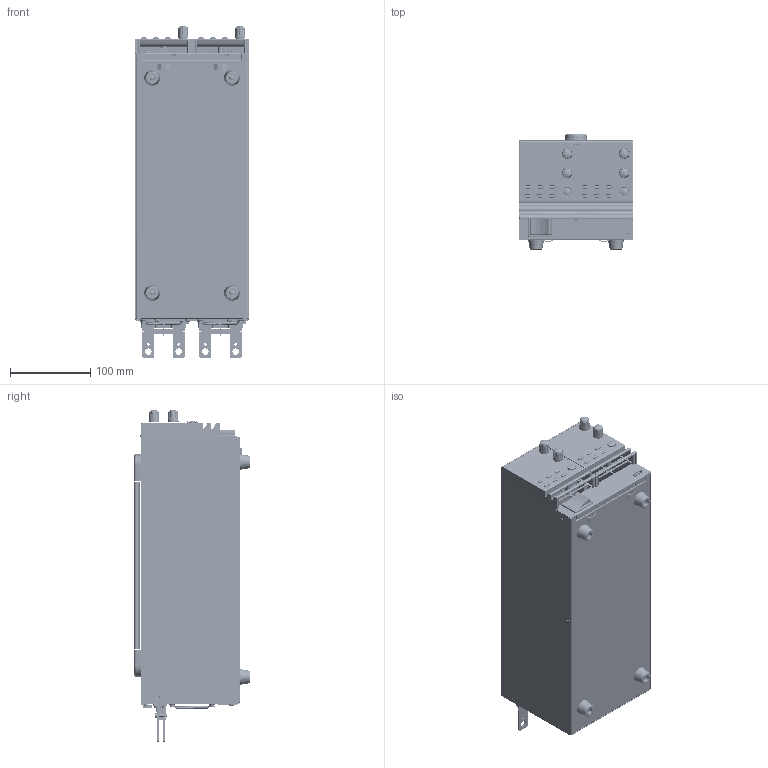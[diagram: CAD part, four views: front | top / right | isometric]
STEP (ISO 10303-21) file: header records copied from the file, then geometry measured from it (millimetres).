
FILE_DESCRIPTION((''),'2;1');
FILE_NAME('PSW-MULTI-CH-L-M2-ASM_ASM','2023-07-04T09:36:39',('shane_wang'),(''),'CREO PARAMETRIC BY PTC INC, 2019080','CREO PARAMETRIC BY PTC INC, 2019080','');
FILE_SCHEMA(('CONFIG_CONTROL_DESIGN'));
Products named in the file (67): 62SW-720FP201; POWER_SW_AJ8R1013; PSW-MULTI-CH-L-M2-FP_ASM; 63FP-AG107501; INSERT-CU; 63FP-AG107501_ASM; 63KE-XG2001A1; 5005-130G0101; 51SW-30080101; 51SW-804002A1; PSW-F1_ASM_ASM; PMS-3X4; PMS-W-3X6; 62SW-720LO1A1; BSO-M3X55; FH-M4-15; 62SW-720LO1A1_ASM; 3P-AC-INLET; USB2; RJ-45; PSW-MAINPCB2_ASM_ASM; 57FC-10B0100_GL-4L-B; BMS-W-3X12; BMS-LOCK-3X6; PSW-MULTI-CH-L-M2-LO-ASM_ASM; FMS110-3X6; 62SW-720RP301; PSW-MULTI-CH-L-M2-RP_ASM; 57IL-20G00101; 57IL-20G00101_ASM; 62SW-080CP101; 62SW-080CP201; PBT_ASM_ASM; FAN-60X60-25; FAN-NET-60-60; PSW-MULTI-CH-L-M2-RP-ASM_ASM; PMS-W-3X8; BMS-W-4X8; BOX-TYPE-PLUGS-26PIN; DOUBLE-ROW-SOCKETS_ASM_ASM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
Assembly tree (181 placements, depth 5):
  PSW-MULTI-CH-L-M2-ASM_ASM
    PSW-MULTI-CH-L-M2-FP_ASM
      62SW-720FP201
      POWER_SW_AJ8R1013
    PSW-F1_ASM_ASM  x2
      63FP-AG107501_ASM
        63FP-AG107501
        INSERT-CU  x2
      63KE-XG2001A1
      5005-130G0101
      51SW-30080101
      51SW-804002A1
    PMS-3X4  x2
    PMS-W-3X6  x12
    PSW-MULTI-CH-L-M2-LO-ASM_ASM
      62SW-720LO1A1_ASM
        62SW-720LO1A1
        BSO-M3X55  x12
        FH-M4-15
      PSW-MAINPCB2_ASM_ASM
        3P-AC-INLET
        USB2
        RJ-45
      57FC-10B0100_GL-4L-B  x4
      BMS-W-3X12  x4
      BMS-LOCK-3X6  x12
    FMS110-3X6  x20
    PSW-MULTI-CH-L-M2-RP-ASM_ASM
      PSW-MULTI-CH-L-M2-RP_ASM
        62SW-720RP301
      PBT_ASM_ASM  x2
        57IL-20G00101_ASM
          57IL-20G00101
        62SW-080CP101
        62SW-080CP201
      FAN-60X60-25  x2
      FAN-NET-60-60  x2
    PMS-W-3X8  x11
    BMS-LOCK-3X6  x2
    BMS-W-4X8  x6
    PSW-ANALOG-DIGITAL-PCB_ASM_ASM  x2
      DOUBLE-ROW-SOCKETS_ASM_ASM
        BOX-TYPE-PLUGS-26PIN
      USB
      62SW-080HP501
    5320-00403001-SR-3S_ASM  x12
      5320-00403001-SR-3S-1
      5320-00403001-SR-3S-2
    62SW-080SC201_ASM  x2
      62SW-080SC201
    IMS-3X6  x4
    PSW-MULTI-CH-L-M2-UP-ASM_ASM
      62SW-720UP201_ASM
        PSW-MULTI-CH-L-M2-UP
        S-M4-1_NUT  x2
      57IL-28F092A1
      BELT_ASM_ASM
        63CH-AG1001A1  x2
        BELT1_ASM_ASM
          550G-20927701
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Bounding box: 141.8 x 144.2 x 413.8 mm (x, y, z)
Volume: 450695 mm3; surface area: 775110.5 mm2
Topology: 209 solids, 212 shells, 11555 faces, 29176 edges, 18424 vertices
Faces by surface type: plane 6743, cylinder 2428, cone 1158, bspline 696, sphere 302, torus 228
Entity records: 189910 total; most frequent: CARTESIAN_POINT 53779, ORIENTED_EDGE 28193, DIRECTION 27475, EDGE_CURVE 14121, VECTOR 9589, LINE 9589, AXIS2_PLACEMENT_3D 8943, VERTEX_POINT 8882
